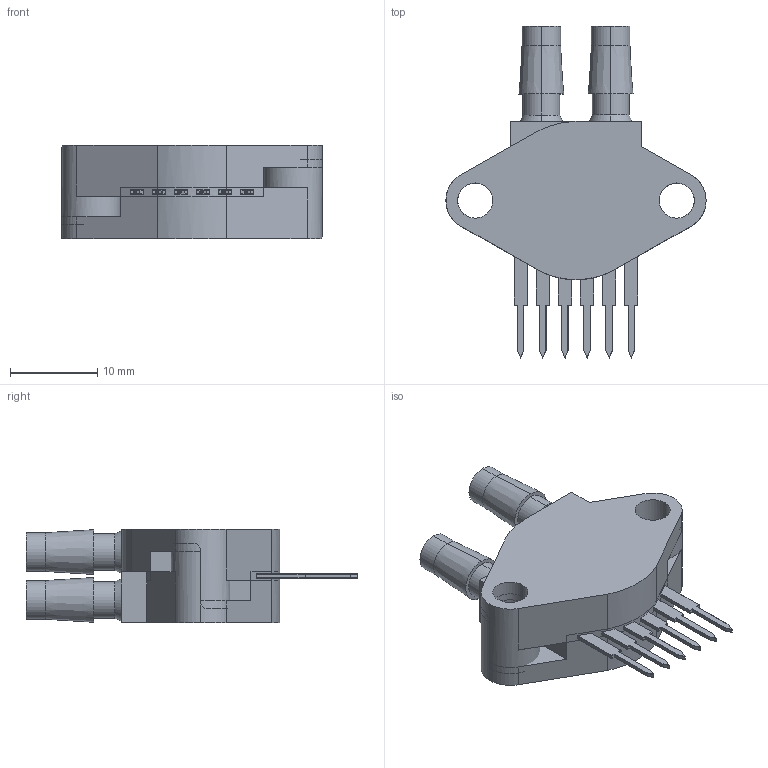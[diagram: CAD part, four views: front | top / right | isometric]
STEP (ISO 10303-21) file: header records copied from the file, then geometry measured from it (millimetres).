
FILE_DESCRIPTION (( 'STEP AP214' ), '1' );
FILE_NAME ('MPX5010.STEP', '2020-05-01T21:32:11', ( '' ), ( '' ), 'SwSTEP 2.0', 'SolidWorks 2011', '' );
FILE_SCHEMA (( 'AUTOMOTIVE_DESIGN' ));
Length unit declared in the file: millimetre
Products named in the file (1): MPX5010
Bounding box: 29.85 x 38.08 x 10.71 mm (x, y, z)
Surface area: 3082.7 mm2 (no closed solid volume)
Topology: 0 solids, 2 shells, 180 faces, 556 edges, 370 vertices
Faces by surface type: plane 142, cylinder 30, cone 8
Entity records: 8118 total; most frequent: CARTESIAN_POINT 1155, ORIENTED_EDGE 1012, DIRECTION 996, EDGE_CURVE 556, LINE 446, VECTOR 446, VERTEX_POINT 370, AXIS2_PLACEMENT_3D 275
